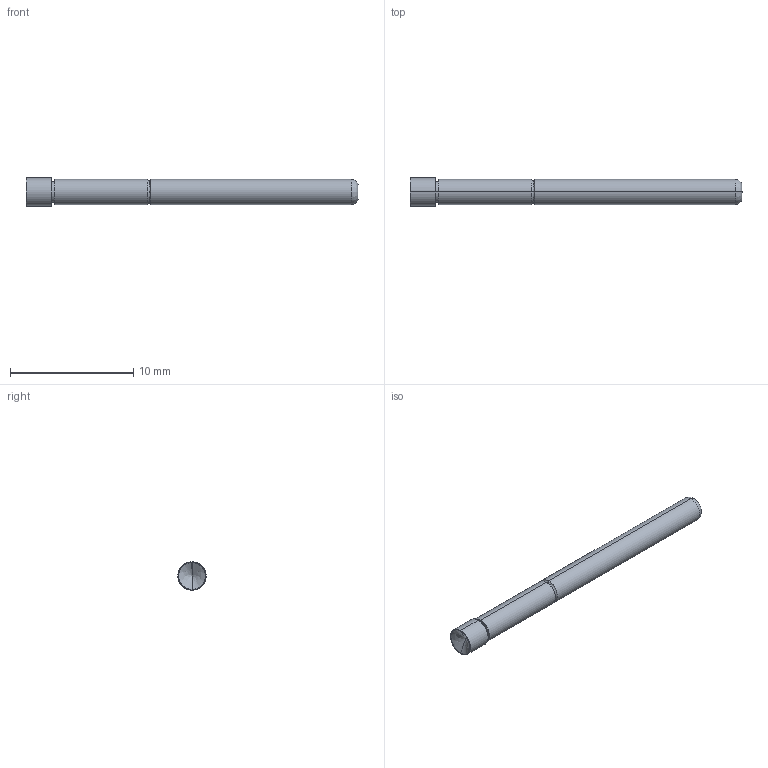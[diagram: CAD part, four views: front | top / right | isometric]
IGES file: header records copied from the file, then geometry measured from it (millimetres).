
Start section: SolidWorks IGES file using analytic representation for surfaces
Global section: file name: O:\PYLON\IGES FILES\P2665\P2665G-1V1S FULL.IGS; native system: SolidWorks 2015; preprocessor: SolidWorks 2015; author: kgolden; date: 171019.135423; units: inch
Bounding box: 26.92 x 2.29 x 2.29 mm (x, y, z)
Surface area: 192.4 mm2 (no closed solid volume)
Topology: 0 solids, 0 shells, 22 faces, 248 edges, 246 vertices
Faces by surface type: revolution 12, bspline 10
